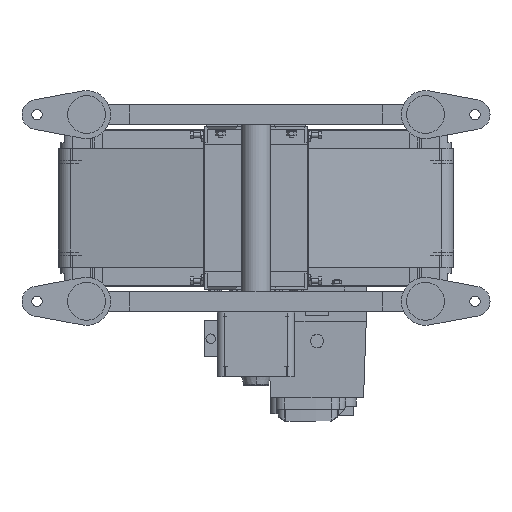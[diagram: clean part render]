
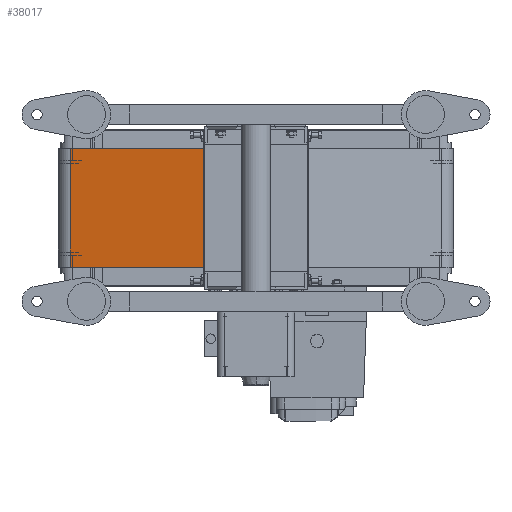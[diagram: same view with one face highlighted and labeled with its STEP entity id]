
A CAD part, front view. The second image highlights one B-rep face of the part: STEP entity #38017.
In plain terms, the highlighted planar face has unit normal (-0.176, -0.984, 0).
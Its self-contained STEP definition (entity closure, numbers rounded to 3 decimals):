
#367 = LINE ( 'NONE', #71827, #25737 ) ;
#3291 = ORIENTED_EDGE ( 'NONE', *, *, #67529, .F. ) ;
#4361 = LINE ( 'NONE', #24480, #68983 ) ;
#6082 = LINE ( 'NONE', #41644, #75562 ) ;
#11395 = DIRECTION ( 'NONE',  ( 0.176, 0.984, 0. ) ) ;
#14027 = CARTESIAN_POINT ( 'NONE',  ( 14.409, -33.936, 75. ) ) ;
#15729 = ORIENTED_EDGE ( 'NONE', *, *, #18028, .F. ) ;
#16955 = EDGE_CURVE ( 'NONE', #78750, #51302, #4361, .T. ) ;
#17274 = EDGE_LOOP ( 'NONE', ( #61145, #15729, #3291, #39931 ) ) ;
#18028 = EDGE_CURVE ( 'NONE', #81064, #51302, #74302, .T. ) ;
#18386 = VECTOR ( 'NONE', #31987, 1000. ) ;
#23520 = CARTESIAN_POINT ( 'NONE',  ( 217.987, -70.264, -75. ) ) ;
#24480 = CARTESIAN_POINT ( 'NONE',  ( 14.409, -33.936, -75. ) ) ;
#25737 = VECTOR ( 'NONE', #59786, 1000. ) ;
#31987 = DIRECTION ( 'NONE',  ( 0., 0., -1. ) ) ;
#32786 = FACE_OUTER_BOUND ( 'NONE', #17274, .T. ) ;
#36143 = DIRECTION ( 'NONE',  ( 0.984, -0.176, 0. ) ) ;
#37117 = PLANE ( 'NONE',  #78696 ) ;
#38017 = ADVANCED_FACE ( 'NONE', ( #32786 ), #37117, .F. ) ;
#39622 = CARTESIAN_POINT ( 'NONE',  ( 14.409, -33.936, -75. ) ) ;
#39931 = ORIENTED_EDGE ( 'NONE', *, *, #69687, .T. ) ;
#41644 = CARTESIAN_POINT ( 'NONE',  ( 14.409, -33.936, 75. ) ) ;
#51302 = VERTEX_POINT ( 'NONE', #23520 ) ;
#54885 = CARTESIAN_POINT ( 'NONE',  ( 14.409, -33.936, 75. ) ) ;
#55992 = DIRECTION ( 'NONE',  ( 0.984, -0.176, 0. ) ) ;
#57107 = VERTEX_POINT ( 'NONE', #14027 ) ;
#59786 = DIRECTION ( 'NONE',  ( 0., 0., -1. ) ) ;
#61145 = ORIENTED_EDGE ( 'NONE', *, *, #16955, .T. ) ;
#63457 = CARTESIAN_POINT ( 'NONE',  ( 217.987, -70.264, 75. ) ) ;
#67529 = EDGE_CURVE ( 'NONE', #57107, #81064, #6082, .T. ) ;
#68983 = VECTOR ( 'NONE', #55992, 1000. ) ;
#69687 = EDGE_CURVE ( 'NONE', #57107, #78750, #367, .T. ) ;
#70690 = CARTESIAN_POINT ( 'NONE',  ( 217.987, -70.264, 75. ) ) ;
#71827 = CARTESIAN_POINT ( 'NONE',  ( 14.409, -33.936, 75. ) ) ;
#74302 = LINE ( 'NONE', #63457, #18386 ) ;
#75562 = VECTOR ( 'NONE', #36143, 1000. ) ;
#78696 = AXIS2_PLACEMENT_3D ( 'NONE', #54885, #11395, #80318 ) ;
#78750 = VERTEX_POINT ( 'NONE', #39622 ) ;
#80318 = DIRECTION ( 'NONE',  ( -0.984, 0.176, 0. ) ) ;
#81064 = VERTEX_POINT ( 'NONE', #70690 ) ;
